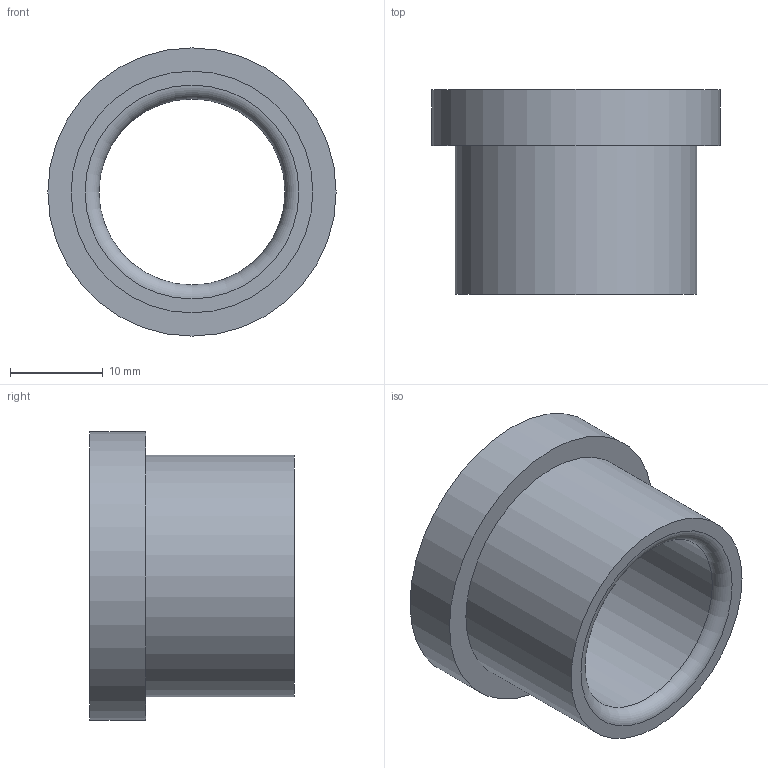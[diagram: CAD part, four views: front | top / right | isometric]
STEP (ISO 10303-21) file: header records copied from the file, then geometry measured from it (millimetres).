
FILE_DESCRIPTION(/* description */ ('STEP AP214'),/* implementation_level */ '2;1');
FILE_NAME(/* name */ '03_12_17921',/* time_stamp */ '2023-06-15T11:35:30+02:00',/* author */ ('License CC BY-ND 4.0'),/* organization */ ('CADENAS'),/* preprocessor_version */ 'ST-DEVELOPER v19.3',/* originating_system */ 'PARTsolutions',/* authorisation */ ' ');
FILE_SCHEMA (('AUTOMOTIVE_DESIGN {1 0 10303 214 3 1 1}'));
Length unit declared in the file: millimetre
Products named in the file (1): VA_Bushing_17921
Bounding box: 31 x 22 x 31 mm (x, y, z)
Volume: 5964.2 mm3; surface area: 4082.9 mm2
Topology: 1 solids, 1 shells, 10 faces, 16 edges, 10 vertices
Faces by surface type: cylinder 4, plane 4, torus 2
Full cylindrical faces by diameter (mm): 20 x1, 20.6 x1, 26 x1, 31 x1
Entity records: 302 total; most frequent: DIRECTION 42, CARTESIAN_POINT 31, AXIS2_PLACEMENT_3D 21, ORIENTED_EDGE 20, EDGE_LOOP 20, FACE_BOUND 20, EDGE_CURVE 10, VERTEX_POINT 10
